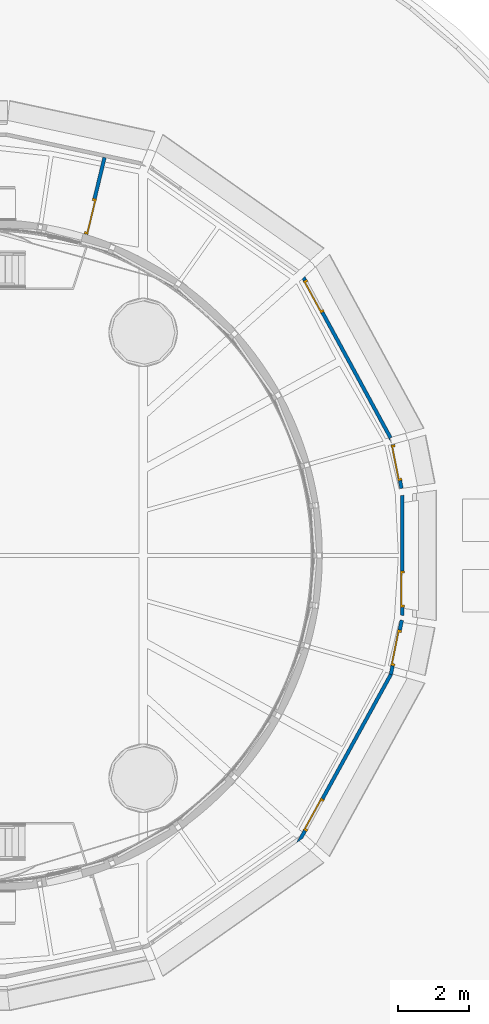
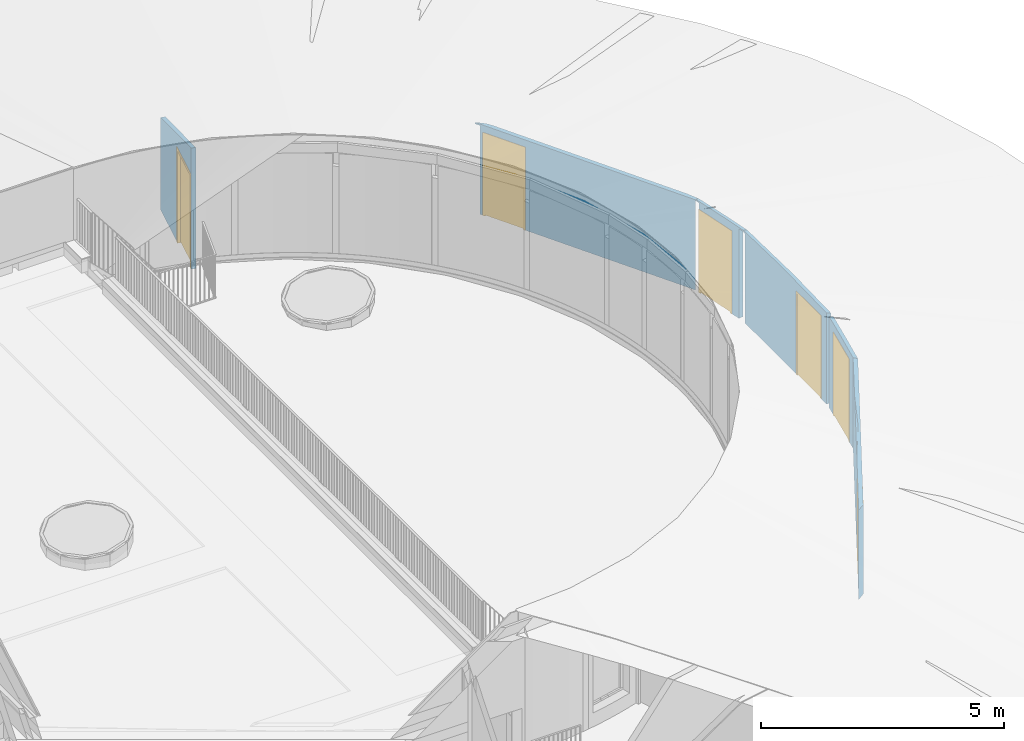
# One storey, part 47 of 66: 6 doors, 6 walls, 6 openings.
"""IFC2X3 building model written with IfcOpenShell, lengths in millimetres."""

from ifc_helpers import new_model, entity, si_unit, converted_unit, derived_unit, direction, frame, frame_2d, origin, place, context, subcontext, project, spatial, rectangle, extrude, faceted_brep, source, transform, mapped, material, material_list, layer, layer_set, type_object, type_shapes, element, fill, save


model = new_model("IFC2X3")

# Units and contexts
model_context = context("Model", 3, precision=0.01, world=origin(), true_north=direction((6.12303176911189e-17, 1.0)))
body_context = subcontext(model_context, "Body", "Model", "MODEL_VIEW")
ifc_project = project(units=[si_unit("LENGTHUNIT", "METRE", prefix="MILLI"), si_unit("AREAUNIT", "SQUARE_METRE"), si_unit("VOLUMEUNIT", "CUBIC_METRE"), converted_unit("PLANEANGLEUNIT", "DEGREE", entity("IfcRatioMeasure", 0.0174532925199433), si_unit("PLANEANGLEUNIT", "RADIAN"), dimensions=[0, 0, 0, 0, 0, 0, 0]), si_unit("MASSUNIT", "GRAM", prefix="KILO"), derived_unit("MASSDENSITYUNIT", [(si_unit("MASSUNIT", "GRAM", prefix="KILO"), 1), (si_unit("LENGTHUNIT", "METRE"), -3)]), derived_unit("MOMENTOFINERTIAUNIT", [(si_unit("LENGTHUNIT", "METRE"), 4)]), si_unit("TIMEUNIT", "SECOND"), si_unit("FREQUENCYUNIT", "HERTZ"), si_unit("THERMODYNAMICTEMPERATUREUNIT", "DEGREE_CELSIUS"), derived_unit("THERMALTRANSMITTANCEUNIT", [(si_unit("MASSUNIT", "GRAM", prefix="KILO"), 1), (si_unit("THERMODYNAMICTEMPERATUREUNIT", "KELVIN"), -1), (si_unit("TIMEUNIT", "SECOND"), -3)]), derived_unit("VOLUMETRICFLOWRATEUNIT", [(si_unit("LENGTHUNIT", "METRE"), 3), (si_unit("TIMEUNIT", "SECOND"), -1)]), si_unit("ELECTRICCURRENTUNIT", "AMPERE"), si_unit("ELECTRICVOLTAGEUNIT", "VOLT"), si_unit("POWERUNIT", "WATT"), si_unit("FORCEUNIT", "NEWTON", prefix="KILO"), si_unit("ILLUMINANCEUNIT", "LUX"), si_unit("LUMINOUSFLUXUNIT", "LUMEN"), si_unit("LUMINOUSINTENSITYUNIT", "CANDELA"), derived_unit("USERDEFINED", [(si_unit("MASSUNIT", "GRAM", prefix="KILO"), -1), (si_unit("LENGTHUNIT", "METRE"), -2), (si_unit("TIMEUNIT", "SECOND"), 3), (si_unit("LUMINOUSFLUXUNIT", "LUMEN"), 1)]), derived_unit("LINEARVELOCITYUNIT", [(si_unit("LENGTHUNIT", "METRE"), 1), (si_unit("TIMEUNIT", "SECOND"), -1)]), si_unit("PRESSUREUNIT", "PASCAL"), derived_unit("USERDEFINED", [(si_unit("LENGTHUNIT", "METRE"), -2), (si_unit("MASSUNIT", "GRAM", prefix="KILO"), 1), (si_unit("TIMEUNIT", "SECOND"), -2)]), derived_unit("LINEARFORCEUNIT", [(si_unit("MASSUNIT", "GRAM", prefix="KILO"), 1), (si_unit("LENGTHUNIT", "METRE"), 1), (si_unit("TIMEUNIT", "SECOND"), -2), (si_unit("LENGTHUNIT", "METRE"), -1)]), derived_unit("PLANARFORCEUNIT", [(si_unit("MASSUNIT", "GRAM", prefix="KILO"), 1), (si_unit("LENGTHUNIT", "METRE"), 1), (si_unit("TIMEUNIT", "SECOND"), -2), (si_unit("LENGTHUNIT", "METRE"), -2)])], contexts=[model_context])

# Site, building, storey
site_placement = place(None, origin())
site = spatial("IfcSite", under=ifc_project, at=site_placement, Name="Default", CompositionType="ELEMENT")
building_placement = place(site_placement, origin())
building = spatial("IfcBuilding", under=site, at=building_placement, Name="-", CompositionType="ELEMENT")
storey_placement = place(building_placement, frame((0.0, 0.0, 3070.0)))
storey = spatial("IfcBuildingStorey", under=building, at=storey_placement, Name="01 eerste verdieping", CompositionType="ELEMENT", Elevation=3070.00000000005)

# Wall, opening, door
ifc_material_1 = material(Name="NLRS_f7_gipsplaat_gen")
ifc_layer_1 = layer(ifc_material_1, 12.5)
ifc_material_2 = material(Name="NLRS_m1_isolatie")
ifc_layer_2 = layer(ifc_material_2, 75.0)
ifc_layer_3 = layer(ifc_material_1, 12.5)
ifc_layer_set = layer_set([ifc_layer_1, ifc_layer_2, ifc_layer_3], Name="Basic Wall:NLRS_21_WA_Metalstud 100mm")
wall_type = type_object("IfcWallType", Name="Basic Wall:NLRS_21_WA_Metalstud 100mm", PredefinedType="STANDARD", material=ifc_layer_set)
wall_1_placement = place(storey_placement, frame((53445.0886183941, 28658.5219150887, 100.0), z_axis=(0.0, 0.0, 1.0), x_axis=(0.234120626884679, 0.972207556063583, 0.0)))
wall_1 = element("IfcWall", 1, at=wall_1_placement, inside=storey, type_object=wall_type, Name="Basic Wall:NLRS_21_WA_Metalstud 100mm", ObjectType="Basic Wall:NLRS_21_WA_Metalstud 100mm", context=body_context, shape_type="Brep", body=[
    faceted_brep([(2232.9756117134, -50.0, 0.0), (1043.30066514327, -50.0, 0.0), (1043.30066514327, 50.0, 0.0), (2230.45716647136, 50.0, 0.0), (9.3006651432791, -50.0, 0.0), (0.0, -50.0, 0.0), (3.32672901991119, -0.0084512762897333, 0.0), (6.38889666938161, 50.0, 0.0), (9.30066514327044, 50.0, 0.0), (9.3006651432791, -50.0, 2392.0), (1043.30066514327, -50.0, 2392.0), (2232.9756117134, -50.0, 2322.28861399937), (992.45516061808, -50.0, 2724.65357496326), (683.228503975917, -50.0, 2824.91039598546), (0.0, -50.0, 3046.42531512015), (1043.30066514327, 50.0, 2392.0), (9.30066514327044, 50.0, 2392.0), (6.38889666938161, 50.0, 3046.42531512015), (1241.99744224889, 50.0, 2645.55954623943), (1848.87518823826, 50.0, 2448.61477869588), (2230.45716647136, 50.0, 2324.78329121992), (3.32673087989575, -0.00842216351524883, 3046.42531512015), (2231.7163560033, 0.00131386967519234, 2323.5705349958)], [[[0, 1, 2, 3]], [[4, 5, 6, 7, 8]], [[5, 4, 9, 10, 1, 0, 11, 12, 13, 14]], [[15, 16, 8, 7, 17, 18, 19, 20, 3, 2]], [[6, 5, 14]], [[21, 6, 14]], [[17, 7, 21]], [[6, 21, 7]], [[4, 8, 16, 9]], [[9, 16, 15, 10]], [[1, 10, 15, 2]], [[19, 18, 22, 20]], [[21, 14, 13]], [[11, 22, 18]], [[18, 12, 11]], [[21, 13, 17]], [[12, 17, 13]], [[17, 12, 18]], [[22, 11, 0, 3, 20]]]),
])
opening_1_placement = place(wall_1_placement, frame((1043.30066514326, 50.0, -70.0)))
opening_1 = element("IfcOpeningElement", 2, at=opening_1_placement, cuts=wall_1, Name="AL_32.i_Binnenkozijn-enkeledeur_Linksdraaiend:Merk a.sp:1", ObjectType="Opening", context=body_context, shape_type="SweptSolid", body=[
    extrude(rectangle(XDim=2462.00000000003, YDim=1034.0, at=frame_2d((1231.00000000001, 516.999999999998), x_axis=(1.0, 0.0))), frame((0.0, 0.0, 0.0), z_axis=(0.0, -1.0, 0.0), x_axis=(0.0, 0.0, 1.0)), (0.0, 0.0, 1.0), 100.0),
])
ifc_material_3 = material(Name="NLRS_i3_hout_Loofhout (hardhout) RAL 9002")
ifc_material_4 = material(Name="31_Glas")
ifc_material_5 = material(Name="<Unnamed>")
ifc_material_list_1 = material_list([ifc_material_4, ifc_material_5, ifc_material_5, ifc_material_3])
door_style_1 = type_object("IfcDoorStyle", Name="AL_32.i_Binnenkozijn-enkeledeur_Linksdraaiend:Merk a.sp", ConstructionType="NOTDEFINED", OperationType="SINGLE_SWING_LEFT", ParameterTakesPrecedence=False, Sizeable=False, material=ifc_material_list_1)
shared_shape_1 = source(origin(), body_context, "Body", "Brep", [
    faceted_brep([(982.0, 40.0, 95.0), (52.0, 40.0, 95.0), (52.0, 40.0, 2410.0), (982.0, 40.0, 2410.0), (982.0, 0.0, 95.0), (52.0, 0.0, 95.0), (52.0, 0.0, 2410.0), (982.0, 0.0, 2410.0)], [[[0, 1, 2, 3]], [[1, 0, 4, 5]], [[2, 1, 5, 6]], [[0, 3, 7, 4]], [[4, 7, 6, 5]], [[3, 2, 6, 7]]]),
    faceted_brep([(984.0, -7.0, 70.0), (984.0, 42.0, 70.0), (967.0, 42.0, 70.0), (967.0, 107.0, 70.0), (1034.0, 107.0, 70.0), (1034.0, 77.0, 70.0), (1025.0, 77.0, 70.0), (1025.0, 23.0, 70.0), (1034.0, 23.0, 70.0), (1034.0, -7.0, 70.0), (984.0, -7.0, 2412.0), (984.0, 42.0, 2412.0), (50.0, 42.0, 2412.0), (50.0, 42.0, 70.0), (67.0, 42.0, 70.0), (67.0, 42.0, 2395.0), (967.0, 42.0, 2395.0), (967.0, 107.0, 2395.0), (67.0, 107.0, 2395.0), (67.0, 107.0, 70.0), (0.0, 107.0, 70.0), (0.0, 107.0, 2462.0), (1034.0, 107.0, 2462.0), (1034.0, 77.0, 2462.0), (0.0, 77.0, 2462.0), (0.0, 77.0, 70.0), (9.0, 77.0, 70.0), (9.0, 77.0, 2453.0), (1025.0, 77.0, 2453.0), (1025.0, 23.0, 2453.0), (9.0, 23.0, 2453.0), (9.0, 23.0, 70.0), (0.0, 23.0, 70.0), (0.0, 23.0, 2462.0), (1034.0, 23.0, 2462.0), (1034.0, -7.0, 2462.0), (0.0, -7.0, 2462.0), (0.0, -7.0, 70.0), (50.0, -7.0, 70.0), (50.0, -7.0, 2412.0)], [[[0, 1, 2, 3, 4, 5, 6, 7, 8, 9]], [[1, 0, 10, 11]], [[2, 1, 11, 12, 13, 14, 15, 16]], [[3, 2, 16, 17]], [[4, 3, 17, 18, 19, 20, 21, 22]], [[5, 4, 22, 23]], [[6, 5, 23, 24, 25, 26, 27, 28]], [[7, 6, 28, 29]], [[8, 7, 29, 30, 31, 32, 33, 34]], [[9, 8, 34, 35]], [[0, 9, 35, 36, 37, 38, 39, 10]], [[38, 37, 32, 31, 26, 25, 20, 19, 14, 13]], [[36, 33, 32, 37]], [[30, 27, 26, 31]], [[24, 21, 20, 25]], [[18, 15, 14, 19]], [[12, 39, 38, 13]], [[17, 16, 15, 18]], [[23, 22, 21, 24]], [[35, 34, 33, 36]], [[11, 10, 39, 12]], [[29, 28, 27, 30]]]),
])
type_shapes(door_style_1, [shared_shape_1])
door_1_placement = place(opening_1_placement, frame((-1034.0, -100.0, 0.0)))
door_1 = element("IfcDoor", 3, at=door_1_placement, inside=storey, type_object=door_style_1, material=ifc_material_3, Name="AL_32.i_Binnenkozijn-enkeledeur_Linksdraaiend:Merk a.sp", ObjectType="AL_32.i_Binnenkozijn-enkeledeur_Linksdraaiend:Merk a.sp", OverallHeight=2462.00000000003, OverallWidth=1033.99999999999, context=body_context, shape_type="MappedRepresentation", body=[
    mapped(shared_shape_1, transform((0.0, 0.0, 0.0), scale=1.0)),
])
fill(opening_1, door_1)

wall_2_placement = place(storey_placement, frame((62361.8708900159, 21377.3503563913, 100.0), z_axis=(0.0, 0.0, 1.0), x_axis=(0.0, -1.0, 0.0)))
wall_2 = element("IfcWall", 4, at=wall_2_placement, inside=storey, type_object=wall_type, Name="Basic Wall:NLRS_21_WA_Metalstud 100mm", ObjectType="Basic Wall:NLRS_21_WA_Metalstud 100mm", context=body_context, shape_type="Brep", body=[
    faceted_brep([(3442.32823735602, -50.0, 0.0), (3227.04236089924, -50.0, 0.0), (3227.04236089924, 50.0, 0.0), (3457.56070161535, 50.0, 0.0), (2193.04236089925, -50.0, 0.0), (75.6101034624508, -50.0, 0.0), (60.3791706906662, 50.0, 0.0), (2193.04236089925, 50.0, 0.0), (75.6101034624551, -50.0, 2249.72690340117), (2193.04236089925, -50.0, 2092.0), (3227.04236089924, -50.0, 2092.0), (3442.32823735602, -50.0, 2293.62739076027), (2965.562384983, -50.0, 2303.2378381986), (2488.79653260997, -50.0, 2312.84828563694), (2012.03068023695, -50.0, 2322.45873307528), (1535.26482786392, -50.0, 2332.06918051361), (772.538096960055, -50.0, 2311.18253506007), (9.8113660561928, -50.0, 2290.29588960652), (9.8113660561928, -50.0, 2249.72690340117), (3227.04236089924, 50.0, 2092.0), (2193.04236089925, 50.0, 2092.0), (60.3791706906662, 50.0, 2249.72690340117), (0.0, 50.0, 2249.72690340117), (0.0, 50.0, 2257.69037825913), (453.588177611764, 50.0, 2267.66616314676), (907.176355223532, 50.0, 2277.64194803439), (1920.90219051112, 50.0, 2299.93686524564), (2305.06681828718, 50.0, 2290.14306999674), (2689.23144606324, 50.0, 2280.34927474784), (3010.75826670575, 50.0, 2272.1523518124), (3457.56070161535, 50.0, 2260.76168425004), (4.90568587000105, -2.89654569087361e-05, 2273.99323338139), (3449.94446938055, -6.90210845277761e-07, 2277.19453998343)], [[[0, 1, 2, 3]], [[4, 5, 6, 7]], [[8, 5, 4, 9, 10, 1, 0, 11, 12, 13, 14, 15, 16, 17, 18]], [[3, 2, 19, 20, 7, 6, 21, 22, 23, 24, 25, 26, 27, 28, 29, 30]], [[15, 25, 16]], [[28, 13, 12]], [[14, 13, 27]], [[24, 23, 31]], [[15, 26, 25]], [[17, 16, 24]], [[12, 29, 28]], [[11, 32, 29]], [[26, 14, 27]], [[32, 30, 29]], [[13, 28, 27]], [[12, 11, 29]], [[17, 24, 31]], [[26, 15, 14]], [[24, 16, 25]], [[4, 7, 20, 9]], [[9, 20, 19, 10]], [[10, 19, 2, 1]], [[21, 8, 18, 22]], [[21, 6, 5, 8]], [[23, 22, 18, 17, 31]], [[0, 3, 30, 32, 11]]]),
])
opening_2_placement = place(wall_2_placement, frame((3227.04236089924, 50.0, -50.0)))
opening_2 = element("IfcOpeningElement", 5, at=opening_2_placement, cuts=wall_2, Name="AL_32.i_Binnenkozijn-enkeledeur_Rechtsdraaiend:Merk a (2000mm hoog):1", ObjectType="Opening", context=body_context, shape_type="SweptSolid", body=[
    extrude(rectangle(XDim=2142.00000000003, YDim=1034.0, at=frame_2d((1071.00000000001, 516.999999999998), x_axis=(1.0, 0.0))), frame((0.0, 0.0, 0.0), z_axis=(0.0, -1.0, 0.0), x_axis=(0.0, 0.0, 1.0)), (0.0, 0.0, 1.0), 100.0),
])
ifc_material_list_2 = material_list([ifc_material_5, ifc_material_5, ifc_material_4, ifc_material_3])
door_style_2 = type_object("IfcDoorStyle", Name="AL_32.i_Binnenkozijn-enkeledeur_Rechtsdraaiend:Merk a (2000mm hoog)", ConstructionType="NOTDEFINED", OperationType="SINGLE_SWING_RIGHT", ParameterTakesPrecedence=False, Sizeable=False, material=ifc_material_list_2)
shared_shape_2 = source(origin(), body_context, "Body", "Brep", [
    faceted_brep([(982.0, 40.0, 75.0), (52.0, 40.0, 75.0), (52.0, 40.0, 2090.0), (982.0, 40.0, 2090.0), (982.0, 0.0, 75.0), (52.0, 0.0, 75.0), (52.0, 0.0, 2090.0), (982.0, 0.0, 2090.0)], [[[0, 1, 2, 3]], [[1, 0, 4, 5]], [[2, 1, 5, 6]], [[0, 3, 7, 4]], [[4, 7, 6, 5]], [[3, 2, 6, 7]]]),
    faceted_brep([(984.0, -7.0, 50.0), (984.0, 42.0, 50.0), (967.0, 42.0, 50.0), (967.0, 107.0, 50.0), (1034.0, 107.0, 50.0), (1034.0, 77.0, 50.0), (1025.0, 77.0, 50.0), (1025.0, 23.0, 50.0), (1034.0, 23.0, 50.0), (1034.0, -7.0, 50.0), (984.0, -7.0, 2092.0), (984.0, 42.0, 2092.0), (50.0, 42.0, 2092.0), (50.0, 42.0, 50.0), (67.0, 42.0, 50.0), (67.0, 42.0, 2075.0), (967.0, 42.0, 2075.0), (967.0, 107.0, 2075.0), (67.0, 107.0, 2075.0), (67.0, 107.0, 50.0), (0.0, 107.0, 50.0), (0.0, 107.0, 2142.0), (1034.0, 107.0, 2142.0), (1034.0, 77.0, 2142.0), (0.0, 77.0, 2142.0), (0.0, 77.0, 50.0), (9.0, 77.0, 50.0), (9.0, 77.0, 2133.0), (1025.0, 77.0, 2133.0), (1025.0, 23.0, 2133.0), (9.0, 23.0, 2133.0), (9.0, 23.0, 50.0), (0.0, 23.0, 50.0), (0.0, 23.0, 2142.0), (1034.0, 23.0, 2142.0), (1034.0, -7.0, 2142.0), (0.0, -7.0, 2142.0), (0.0, -7.0, 50.0), (50.0, -7.0, 50.0), (50.0, -7.0, 2092.0)], [[[0, 1, 2, 3, 4, 5, 6, 7, 8, 9]], [[1, 0, 10, 11]], [[2, 1, 11, 12, 13, 14, 15, 16]], [[3, 2, 16, 17]], [[4, 3, 17, 18, 19, 20, 21, 22]], [[5, 4, 22, 23]], [[6, 5, 23, 24, 25, 26, 27, 28]], [[7, 6, 28, 29]], [[8, 7, 29, 30, 31, 32, 33, 34]], [[9, 8, 34, 35]], [[0, 9, 35, 36, 37, 38, 39, 10]], [[38, 37, 32, 31, 26, 25, 20, 19, 14, 13]], [[36, 33, 32, 37]], [[30, 27, 26, 31]], [[24, 21, 20, 25]], [[18, 15, 14, 19]], [[12, 39, 38, 13]], [[17, 16, 15, 18]], [[23, 22, 21, 24]], [[35, 34, 33, 36]], [[11, 10, 39, 12]], [[29, 28, 27, 30]]]),
])
type_shapes(door_style_2, [shared_shape_2])
door_2_placement = place(opening_2_placement, frame((-1034.0, -100.0, 0.0)))
door_2 = element("IfcDoor", 6, at=door_2_placement, inside=storey, type_object=door_style_2, material=ifc_material_3, Name="AL_32.i_Binnenkozijn-enkeledeur_Rechtsdraaiend:Merk a (2000mm hoog)", ObjectType="AL_32.i_Binnenkozijn-enkeledeur_Rechtsdraaiend:Merk a (2000mm hoog)", OverallHeight=2142.00000000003, OverallWidth=1033.99999999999, context=body_context, shape_type="MappedRepresentation", body=[
    mapped(shared_shape_2, transform((0.0, 0.0, 0.0), scale=1.0)),
])
fill(opening_2, door_2)

wall_3_placement = place(storey_placement, frame((59524.584887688, 27536.5510805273, 100.0), z_axis=(0.0, 0.0, 1.0), x_axis=(0.477071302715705, -0.878864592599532, 0.0)))
wall_3 = element("IfcWall", 7, at=wall_3_placement, inside=storey, type_object=wall_type, Name="Basic Wall:NLRS_21_WA_Metalstud 100mm", ObjectType="Basic Wall:NLRS_21_WA_Metalstud 100mm", context=body_context, shape_type="Brep", body=[
    faceted_brep([(5326.70593003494, -50.0, 0.0), (1222.37243264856, -50.0, 0.0), (1222.37243264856, 50.0, 0.0), (5248.18236969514, 50.0, 0.0), (5241.53578523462, 20.4629624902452, 0.0), (5232.2918651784, -20.6164844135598, 0.0), (188.37243264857, -50.0, 0.0), (116.598437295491, -50.0, 0.0), (92.9258413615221, 50.0, 0.0), (188.372432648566, 50.0, 0.0), (5058.74516676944, 50.0, 2268.57281640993), (5196.05997280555, 21.6102447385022, 2268.57281640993), (5200.34105225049, 50.0, 2259.26094767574), (5337.46848004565, 20.799741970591, 2259.00001725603), (5341.90732723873, 50.0, 2249.42711085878), (5253.08583025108, 50.0, 2255.59705569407), (5333.02962760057, -8.40055041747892, 2268.57281640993), (116.598437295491, -50.0, 2229.70584599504), (188.372432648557, -50.0, 2092.0), (1222.37243264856, -50.0, 2092.0), (5326.70593003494, -50.0, 2240.44260720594), (5326.70593003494, -50.0, 2268.57281640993), (0.0, -50.0, 2268.57281640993), (0.0, -50.0, 2229.70584599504), (5341.90732723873, 50.0, 2240.44260720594), (5248.18236969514, 50.0, 2240.44260720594), (1222.37243264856, 50.0, 2092.0), (188.372432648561, 50.0, 2092.0), (92.9258413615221, 50.0, 2229.70584599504), (202.362266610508, 50.0, 2229.70584599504), (202.362266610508, 50.0, 2230.6035447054), (202.362266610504, 50.0, 2255.95235038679), (329.073301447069, 50.0, 2264.47099212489), (392.434385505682, 50.0, 2268.57281640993), (223.473438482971, 14.8270201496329, 2268.57281640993), (55.0420586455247, -22.8002361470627, 2268.57281640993), (104.148183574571, 1.46620727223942, 2264.44354916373), (104.387101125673, 1.58427155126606, 2229.70584599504), (5232.2918651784, -20.6164844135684, 2240.44260720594)], [[[0, 1, 2, 3, 4, 5]], [[6, 7, 8, 9]], [[10, 11, 12]], [[12, 11, 13]], [[13, 14, 15, 12]], [[16, 13, 11]], [[17, 7, 6, 18, 19, 1, 0, 20, 21, 22, 23]], [[10, 12, 15, 14, 24, 25, 3, 2, 26, 27, 9, 8, 28, 29, 30, 31, 32, 33]], [[33, 34, 35, 22, 21, 16, 11, 10]], [[36, 35, 34]], [[31, 36, 32]], [[34, 33, 32]], [[34, 32, 36]], [[37, 17, 23]], [[37, 28, 8, 7, 17]], [[36, 31, 30, 29, 37, 23, 22, 35]], [[37, 29, 28]], [[25, 24, 20, 38]], [[20, 0, 5, 38]], [[38, 5, 4, 3, 25]], [[20, 16, 21]], [[16, 20, 13]], [[13, 24, 14]], [[24, 13, 20]], [[18, 6, 9, 27]], [[19, 18, 27, 26]], [[1, 19, 26, 2]]]),
])
opening_3_placement = place(wall_3_placement, frame((1222.37243264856, 50.0, -50.0)))
opening_3 = element("IfcOpeningElement", 8, at=opening_3_placement, cuts=wall_3, Name="AL_32.i_Binnenkozijn-enkeledeur_Linksdraaiend:Merk a.sp (2000mm hoog):1", ObjectType="Opening", context=body_context, shape_type="SweptSolid", body=[
    extrude(rectangle(XDim=2142.00000000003, YDim=1034.0, at=frame_2d((1071.00000000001, 516.999999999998), x_axis=(1.0, 0.0))), frame((0.0, 0.0, 0.0), z_axis=(0.0, -1.0, 0.0), x_axis=(0.0, 0.0, 1.0)), (0.0, 0.0, 1.0), 100.0),
])
ifc_material_list_3 = material_list([ifc_material_5, ifc_material_4, ifc_material_5, ifc_material_3])
door_style_3 = type_object("IfcDoorStyle", Name="AL_32.i_Binnenkozijn-enkeledeur_Linksdraaiend:Merk a.sp (2000mm hoog)", ConstructionType="NOTDEFINED", OperationType="SINGLE_SWING_LEFT", ParameterTakesPrecedence=False, Sizeable=False, material=ifc_material_list_3)
shared_shape_3 = source(origin(), body_context, "Body", "Brep", [
    faceted_brep([(982.0, 40.0, 75.0), (52.0, 40.0, 75.0), (52.0, 40.0, 2090.0), (982.0, 40.0, 2090.0), (982.0, 0.0, 75.0), (52.0, 0.0, 75.0), (52.0, 0.0, 2090.0), (982.0, 0.0, 2090.0)], [[[0, 1, 2, 3]], [[1, 0, 4, 5]], [[2, 1, 5, 6]], [[0, 3, 7, 4]], [[4, 7, 6, 5]], [[3, 2, 6, 7]]]),
    faceted_brep([(984.0, -7.0, 50.0), (984.0, 42.0, 50.0), (967.0, 42.0, 50.0), (967.0, 107.0, 50.0), (1034.0, 107.0, 50.0), (1034.0, 77.0, 50.0), (1025.0, 77.0, 50.0), (1025.0, 23.0, 50.0), (1034.0, 23.0, 50.0), (1034.0, -7.0, 50.0), (984.0, -7.0, 2092.0), (984.0, 42.0, 2092.0), (50.0, 42.0, 2092.0), (50.0, 42.0, 50.0), (67.0, 42.0, 50.0), (67.0, 42.0, 2075.0), (967.0, 42.0, 2075.0), (967.0, 107.0, 2075.0), (67.0, 107.0, 2075.0), (67.0, 107.0, 50.0), (0.0, 107.0, 50.0), (0.0, 107.0, 2142.0), (1034.0, 107.0, 2142.0), (1034.0, 77.0, 2142.0), (0.0, 77.0, 2142.0), (0.0, 77.0, 50.0), (9.0, 77.0, 50.0), (9.0, 77.0, 2133.0), (1025.0, 77.0, 2133.0), (1025.0, 23.0, 2133.0), (9.0, 23.0, 2133.0), (9.0, 23.0, 50.0), (0.0, 23.0, 50.0), (0.0, 23.0, 2142.0), (1034.0, 23.0, 2142.0), (1034.0, -7.0, 2142.0), (0.0, -7.0, 2142.0), (0.0, -7.0, 50.0), (50.0, -7.0, 50.0), (50.0, -7.0, 2092.0)], [[[0, 1, 2, 3, 4, 5, 6, 7, 8, 9]], [[1, 0, 10, 11]], [[2, 1, 11, 12, 13, 14, 15, 16]], [[3, 2, 16, 17]], [[4, 3, 17, 18, 19, 20, 21, 22]], [[5, 4, 22, 23]], [[6, 5, 23, 24, 25, 26, 27, 28]], [[7, 6, 28, 29]], [[8, 7, 29, 30, 31, 32, 33, 34]], [[9, 8, 34, 35]], [[0, 9, 35, 36, 37, 38, 39, 10]], [[38, 37, 32, 31, 26, 25, 20, 19, 14, 13]], [[36, 33, 32, 37]], [[30, 27, 26, 31]], [[24, 21, 20, 25]], [[18, 15, 14, 19]], [[12, 39, 38, 13]], [[17, 16, 15, 18]], [[23, 22, 21, 24]], [[35, 34, 33, 36]], [[11, 10, 39, 12]], [[29, 28, 27, 30]]]),
])
type_shapes(door_style_3, [shared_shape_3])
door_3_placement = place(opening_3_placement, frame((-1034.0, -100.0, 0.0)))
door_3 = element("IfcDoor", 9, at=door_3_placement, inside=storey, type_object=door_style_3, material=ifc_material_3, Name="AL_32.i_Binnenkozijn-enkeledeur_Linksdraaiend:Merk a.sp (2000mm hoog)", ObjectType="AL_32.i_Binnenkozijn-enkeledeur_Linksdraaiend:Merk a.sp (2000mm hoog)", OverallHeight=2142.00000000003, OverallWidth=1034.0, context=body_context, shape_type="MappedRepresentation", body=[
    mapped(shared_shape_3, transform((0.0, 0.0, 0.0), scale=1.0)),
])
fill(opening_3, door_3)

wall_4_placement = place(storey_placement, frame((59414.5502198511, 11495.2018091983, 100.0), z_axis=(0.0, 0.0, 1.0), x_axis=(0.481556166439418, 0.876415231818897, 0.0)))
wall_4 = element("IfcWall", 10, at=wall_4_placement, inside=storey, type_object=wall_type, Name="Basic Wall:NLRS_21_WA_Metalstud 100mm", ObjectType="Basic Wall:NLRS_21_WA_Metalstud 100mm", context=body_context, shape_type="Brep", body=[
    faceted_brep([(5449.22878688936, -50.0, 0.0), (1446.95524941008, -50.0, 0.0), (1446.95524941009, 50.0, 0.0), (5433.91609595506, 50.0, 0.0), (412.955249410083, -50.0, 0.0), (204.963614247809, -50.0, 0.0), (0.0, 50.0, 0.0), (228.057192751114, 50.0, 0.0), (412.955249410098, 50.0, 0.0), (412.955249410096, -50.0, 2092.0), (1446.95524941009, -50.0, 2092.0), (5449.22878688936, -50.0, 2249.41318023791), (4992.35878487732, -50.0, 2263.23369757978), (4720.7540520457, -50.0, 2271.44985951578), (3992.27931720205, -50.0, 2293.48653879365), (3263.80458235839, -50.0, 2315.52321807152), (2899.56721493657, -50.0, 2326.54155771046), (2535.32984751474, -50.0, 2337.55989734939), (2244.03406835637, -50.0, 2325.33053090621), (1952.738289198, -50.0, 2313.10116446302), (1370.14673088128, -50.0, 2288.64243157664), (787.55517256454, -50.0, 2264.18369869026), (204.963614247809, -50.0, 2239.72496580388), (3968.02195497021, 50.0, 2355.68765192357), (4782.7676715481, 50.0, 2322.03749171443), (5433.91609595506, 50.0, 2282.21605274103), (1446.95524941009, 50.0, 2092.0), (412.955249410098, 50.0, 2092.0), (0.0, 50.0, 2255.7201248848), (114.020163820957, 50.0, 2264.56359531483), (228.057192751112, 50.0, 2273.07210175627), (626.298889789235, 50.0, 2298.00834831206), (1024.54058682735, 50.0, 2322.94459486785), (1821.9082461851, 50.0, 2355.68765192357), (3431.49352777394, 25.1197440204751, 2355.68765192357), (2358.43667338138, 25.1197440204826, 2355.68765192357), (2626.70088697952, 12.6796160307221, 2355.68765192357), (2894.96510057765, 0.239488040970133, 2355.68765192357), (5441.57243471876, 4.37770737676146e-05, 2265.8147751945), (136.651851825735, -16.6712734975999, 2245.20593221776)], [[[0, 1, 2, 3]], [[4, 5, 6, 7, 8]], [[5, 4, 9, 10, 1, 0, 11, 12, 13, 14, 15, 16, 17, 18, 19, 20, 21, 22]], [[23, 24, 25, 3, 2, 26, 27, 8, 7, 6, 28, 29, 30, 31, 32, 33]], [[34, 23, 33, 35, 36, 37]], [[14, 23, 34]], [[33, 20, 19, 18]], [[11, 38, 12]], [[21, 32, 31, 30]], [[24, 14, 13, 12]], [[24, 23, 14]], [[24, 12, 25]], [[30, 22, 21]], [[15, 34, 37]], [[14, 34, 15]], [[18, 17, 35]], [[25, 12, 38]], [[36, 16, 37]], [[32, 21, 20]], [[17, 36, 35]], [[22, 30, 39]], [[29, 28, 39]], [[16, 36, 17]], [[30, 29, 39]], [[33, 18, 35]], [[20, 33, 32]], [[37, 16, 15]], [[28, 6, 5, 22, 39]], [[11, 0, 3, 25, 38]], [[2, 1, 10, 26]], [[27, 26, 10, 9]], [[8, 27, 9, 4]]]),
])
opening_4_placement = place(wall_4_placement, frame((412.955249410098, -50.0, -50.0)))
opening_4 = element("IfcOpeningElement", 11, at=opening_4_placement, cuts=wall_4, Name="AL_32.i_Binnenkozijn-enkeledeur_Rechtsdraaiend:Merk a (2000mm hoog):1", ObjectType="Opening", context=body_context, shape_type="SweptSolid", body=[
    extrude(rectangle(XDim=2142.00000000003, YDim=1034.0, at=frame_2d((1071.00000000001, 516.999999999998), x_axis=(1.0, 0.0))), frame((0.0, 0.0, 0.0), z_axis=(0.0, 1.0, 0.0), x_axis=(0.0, 0.0, 1.0)), (0.0, 0.0, 1.0), 100.0),
])
door_4_placement = place(opening_4_placement, frame((1034.0, 100.0, 0.0), z_axis=(0.0, 0.0, 1.0), x_axis=(-1.0, 0.0, 0.0)))
door_4 = element("IfcDoor", 12, at=door_4_placement, inside=storey, type_object=door_style_2, material=ifc_material_3, Name="AL_32.i_Binnenkozijn-enkeledeur_Rechtsdraaiend:Merk a (2000mm hoog)", ObjectType="AL_32.i_Binnenkozijn-enkeledeur_Rechtsdraaiend:Merk a (2000mm hoog)", OverallHeight=2142.00000000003, OverallWidth=1033.99999999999, context=body_context, shape_type="MappedRepresentation", body=[
    mapped(shared_shape_2, transform((0.0, 0.0, 0.0), scale=1.0)),
])
fill(opening_4, door_4)

wall_5_placement = place(storey_placement, frame((62342.4726702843, 17792.7097037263, 100.0), z_axis=(0.0, 0.0, 1.0), x_axis=(-0.197234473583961, -0.980356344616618, 0.0)))
wall_5 = element("IfcWall", 13, at=wall_5_placement, inside=storey, type_object=wall_type, Name="Basic Wall:NLRS_21_WA_Metalstud 100mm", ObjectType="Basic Wall:NLRS_21_WA_Metalstud 100mm", context=body_context, shape_type="Brep", body=[
    faceted_brep([(1551.40014476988, -50.0, 0.0), (1314.0, -50.0, 0.0), (1314.0, 50.0, 0.0), (1330.53074372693, 50.0, 0.0), (1536.14704300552, 50.0, 0.0), (1566.71283570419, 50.0, 0.0), (280.0, -50.0, 0.0), (0.0, -50.0, 0.0), (0.0, 50.0, 0.0), (280.0, 50.0, 0.0), (280.0, -50.0, 2092.0), (1314.0, -50.0, 2092.0), (1551.40014476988, -50.0, 2282.21605274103), (689.562291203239, -50.0, 2296.48394956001), (0.0, -50.0, 2293.16517349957), (1566.71283570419, 50.0, 2249.41318023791), (1314.0, 50.0, 2092.0), (280.0, 50.0, 2092.0), (0.0, 50.0, 2260.70448693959), (870.461743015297, 50.0, 2262.7053512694), (0.0, -2.19921526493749e-05, 2276.93490339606), (1559.05648346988, -4.41931124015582e-05, 2265.81477533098)], [[[0, 1, 2, 3, 4, 5]], [[6, 7, 8, 9]], [[7, 6, 10, 11, 1, 0, 12, 13, 14]], [[15, 5, 4, 3, 2, 16, 17, 9, 8, 18, 19]], [[7, 14, 20, 18, 8]], [[12, 0, 5, 15, 21]], [[14, 13, 20]], [[19, 18, 20]], [[20, 13, 19]], [[12, 21, 19]], [[15, 19, 21]], [[12, 19, 13]], [[6, 9, 17, 10]], [[10, 17, 16, 11]], [[1, 11, 16, 2]]]),
])
opening_5_placement = place(wall_5_placement, frame((1314.0, 50.0, -50.0)))
opening_5 = element("IfcOpeningElement", 14, at=opening_5_placement, cuts=wall_5, Name="AL_32.i_Binnenkozijn-enkeledeur_Rechtsdraaiend:Merk a (2000mm hoog):1", ObjectType="Opening", context=body_context, shape_type="SweptSolid", body=[
    extrude(rectangle(XDim=2142.00000000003, YDim=1034.0, at=frame_2d((1071.00000000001, 516.999999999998), x_axis=(1.0, 0.0))), frame((0.0, 0.0, 0.0), z_axis=(0.0, -1.0, 0.0), x_axis=(0.0, 0.0, 1.0)), (0.0, 0.0, 1.0), 100.0),
])
door_5_placement = place(opening_5_placement, frame((-1034.0, -100.0, 0.0)))
door_5 = element("IfcDoor", 15, at=door_5_placement, inside=storey, type_object=door_style_2, material=ifc_material_3, Name="AL_32.i_Binnenkozijn-enkeledeur_Rechtsdraaiend:Merk a (2000mm hoog)", ObjectType="AL_32.i_Binnenkozijn-enkeledeur_Rechtsdraaiend:Merk a (2000mm hoog)", OverallHeight=2142.00000000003, OverallWidth=1034.0, context=body_context, shape_type="MappedRepresentation", body=[
    mapped(shared_shape_2, transform((0.0, 0.0, 0.0), scale=1.0)),
])
fill(opening_5, door_5)

wall_6_placement = place(storey_placement, frame((62067.9522557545, 22855.8736193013, 100.0), z_axis=(0.0, 0.0, 1.0), x_axis=(0.194356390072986, -0.980930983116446, 0.0)))
wall_6 = element("IfcWall", 16, at=wall_6_placement, inside=storey, type_object=wall_type, Name="Basic Wall:NLRS_21_WA_Metalstud 100mm", ObjectType="Basic Wall:NLRS_21_WA_Metalstud 100mm", context=body_context, shape_type="Brep", body=[
    faceted_brep([(1372.27580649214, -50.0, 0.0), (1155.24546200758, -50.0, 0.0), (1155.24546200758, 50.0, 0.0), (1376.72409658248, 50.0, 0.0), (121.245462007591, -50.0, 0.0), (116.968455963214, -50.0, 0.0), (112.294025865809, 8.02928675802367, 0.0), (108.913161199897, 50.0, 0.0), (121.245462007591, 50.0, 0.0), (121.245462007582, -50.0, 2092.0), (1155.24546200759, -50.0, 2092.0), (1372.27580649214, -50.0, 2255.80783509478), (1507.36069602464, -50.0, 2255.80783509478), (1507.36069602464, -50.0, 2290.29588960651), (678.337251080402, -50.0, 2293.37155216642), (15.2013972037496, -50.0, 2282.21025341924), (15.2013972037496, -50.0, 2245.98686199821), (116.968455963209, -50.0, 2245.98686199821), (1155.24546200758, 50.0, 2092.0), (121.245462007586, 50.0, 2092.0), (108.913161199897, 50.0, 2245.98686199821), (0.0, 50.0, 2245.98686199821), (0.0, 50.0, 2249.42711085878), (449.645561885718, 50.0, 2256.01588169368), (842.837201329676, 50.0, 2261.7774188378), (1517.17206208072, 50.0, 2257.69037825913), (1517.17206208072, 50.0, 2255.80783509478), (1376.72409658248, 50.0, 2255.80783509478), (1512.26637621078, -2.89654276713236e-05, 2273.99323338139), (12.0395498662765, -29.2002847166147, 2275.39156848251), (8.87769963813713, -8.40055041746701, 2268.57281640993), (4.43885254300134, 20.7997068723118, 2259.00002876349)], [[[0, 1, 2, 3]], [[4, 5, 6, 7, 8]], [[5, 4, 9, 10, 1, 0, 11, 12, 13, 14, 15, 16, 17]], [[3, 2, 18, 19, 8, 7, 20, 21, 22, 23, 24, 25, 26, 27]], [[11, 0, 3, 27]], [[13, 12, 26, 25, 28]], [[6, 5, 17, 20, 7]], [[21, 16, 15, 29, 30, 31, 22]], [[27, 26, 12, 11]], [[20, 17, 16, 21]], [[14, 23, 29]], [[30, 29, 23]], [[22, 31, 23]], [[15, 14, 29]], [[14, 13, 28]], [[24, 28, 25]], [[28, 24, 14]], [[30, 23, 31]], [[24, 23, 14]], [[4, 8, 19, 9]], [[10, 9, 19, 18]], [[10, 18, 2, 1]]]),
])
opening_6_placement = place(wall_6_placement, frame((1155.24546200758, 50.0, -50.0)))
opening_6 = element("IfcOpeningElement", 17, at=opening_6_placement, cuts=wall_6, Name="AL_32.i_Binnenkozijn-enkeledeur_Linksdraaiend:Merk a.sp (2000mm hoog):1", ObjectType="Opening", context=body_context, shape_type="SweptSolid", body=[
    extrude(rectangle(XDim=2142.00000000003, YDim=1034.0, at=frame_2d((1071.00000000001, 516.999999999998), x_axis=(1.0, 0.0))), frame((0.0, 0.0, 0.0), z_axis=(0.0, -1.0, 0.0), x_axis=(0.0, 0.0, 1.0)), (0.0, 0.0, 1.0), 100.0),
])
door_6_placement = place(opening_6_placement, frame((-1034.0, -100.0, 0.0)))
door_6 = element("IfcDoor", 18, at=door_6_placement, inside=storey, type_object=door_style_3, material=ifc_material_3, Name="AL_32.i_Binnenkozijn-enkeledeur_Linksdraaiend:Merk a.sp (2000mm hoog)", ObjectType="AL_32.i_Binnenkozijn-enkeledeur_Linksdraaiend:Merk a.sp (2000mm hoog)", OverallHeight=2142.00000000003, OverallWidth=1034.0, context=body_context, shape_type="MappedRepresentation", body=[
    mapped(shared_shape_3, transform((0.0, 0.0, 0.0), scale=1.0)),
])
fill(opening_6, door_6)

save(model, "model.ifc")
